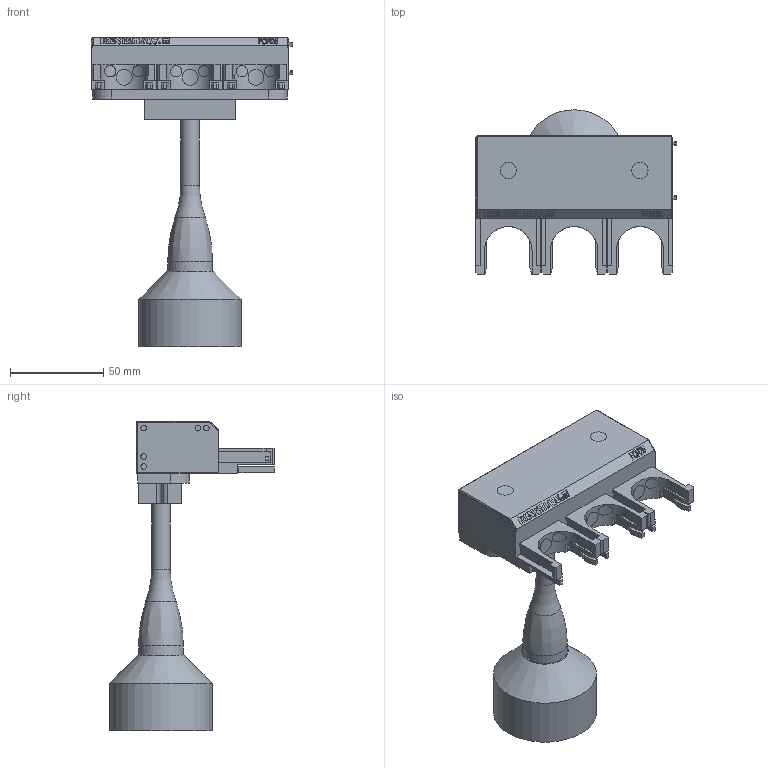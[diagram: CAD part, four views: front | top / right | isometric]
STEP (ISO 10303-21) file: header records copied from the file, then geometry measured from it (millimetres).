
FILE_DESCRIPTION(/* description */ (''),/* implementation_level */ '2;1');
FILE_NAME(/* name */ 'LA-2237-1400#-A.stp',/* time_stamp */ '2012-09-04T14:30:56+01:00',/* author */ (''),/* organization */ (''),/* preprocessor_version */ 'ST-DEVELOPER v11',/* originating_system */ 'SIEMENS PLM Software NX 7.5',/* authorisation */ '');
FILE_SCHEMA (('AUTOMOTIVE_DESIGN { 1 0 10303 214 1 1 1 1 }'));
Length unit declared in the file: millimetre
Products named in the file (1): rt133622tjq5
Bounding box: 107.75 x 88.25 x 165.84 mm (x, y, z)
Volume: 264856.1 mm3; surface area: 41239.1 mm2
Topology: 1 solids, 1 shells, 282 faces, 860 edges, 644 vertices
Faces by surface type: plane 234, cylinder 45, cone 1, bspline 1, torus 1
Full cylindrical faces by diameter (mm): 10 x1, 23.95 x1, 55 x1
Entity records: 12361 total; most frequent: CARTESIAN_POINT 2471, ORIENTED_EDGE 1704, DIRECTION 1491, EDGE_CURVE 852, LINE 663, VECTOR 663, VERTEX_POINT 642, AXIS2_PLACEMENT_3D 414
